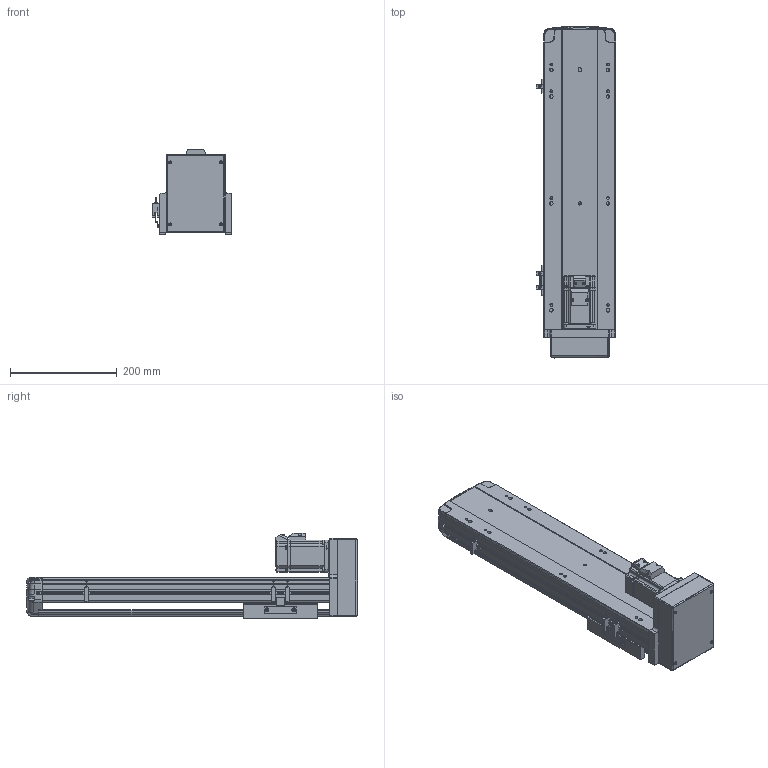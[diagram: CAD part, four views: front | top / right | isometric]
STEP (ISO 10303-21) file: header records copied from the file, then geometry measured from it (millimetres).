
FILE_DESCRIPTION (( 'STEP AP203' ), '1' );
FILE_NAME ('7.STEP', '2020-11-07T01:52:14', ( '' ), ( '' ), 'SwSTEP 2.0', 'SolidWorks 2016', '' );
FILE_SCHEMA (( 'CONFIG_CONTROL_DESIGN' ));
Length unit declared in the file: millimetre
Products named in the file (7): 7; BTH14-BL-BM-BR-菁釱; BTH14-BM-HZ; BTH14-BM-01; BTH14-BM-04; BTH14-BM-02_100; BTH14-BM-P20
Assembly tree (8 placements, depth 2):
  7
    BTH14-BL-BM-BR-菁釱
    BTH14-BM-01
    BTH14-BM-02_100
    BTH14-BM-04  x3
    BTH14-BM-HZ
    BTH14-BM-P20
Bounding box: 148.7 x 621.17 x 160.5 mm (x, y, z)
Volume: 2964591.8 mm3; surface area: 720009 mm2
Topology: 19 solids, 19 shells, 1930 faces, 5155 edges, 3307 vertices
Faces by surface type: plane 1037, cylinder 515, bspline 216, cone 110, torus 44, sphere 8
Entity records: 66607 total; most frequent: CARTESIAN_POINT 24146, ORIENTED_EDGE 9130, DIRECTION 8019, EDGE_CURVE 4565, VERTEX_POINT 2947, AXIS2_PLACEMENT_3D 2698, LINE 2623, VECTOR 2623
